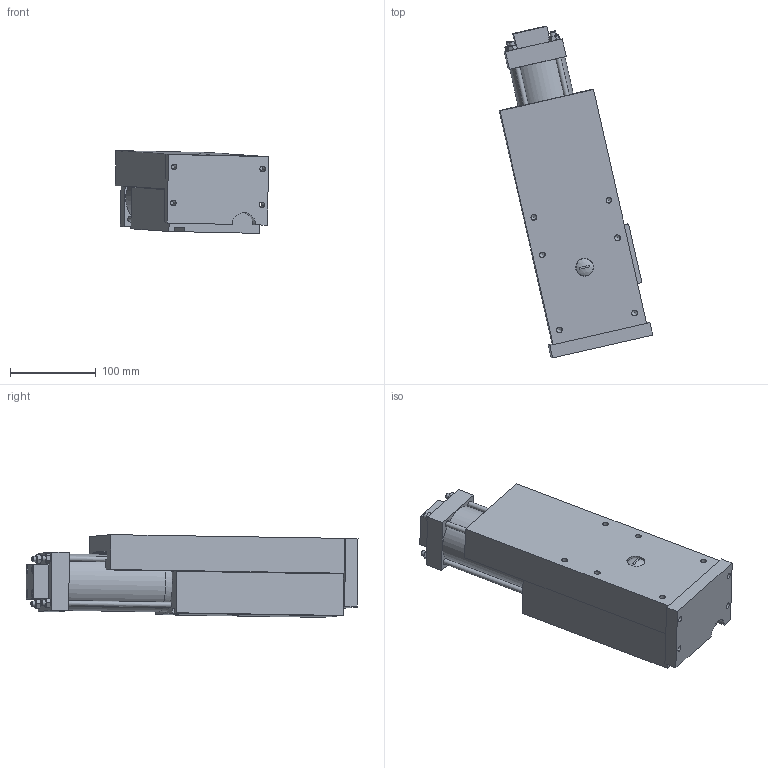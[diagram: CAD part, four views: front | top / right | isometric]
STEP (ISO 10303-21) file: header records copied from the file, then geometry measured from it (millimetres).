
FILE_DESCRIPTION((''),'2;1');
FILE_NAME('C:\VaultWork\Zeichnungen\Maßblätter\H60\VE01522-3-0 Maßblatt Vorschubschlitten H60-80 U.stp','2010-06-23T09:54:22',('Test'),(''),'Autodesk Inventor 2008','Autodesk Inventor 2008','');
FILE_SCHEMA(('AUTOMOTIVE_DESIGN { 1 0 10303 214 1 1 1 1 }'));
Length unit declared in the file: millimetre
Products named in the file (1): VE01522-3-0 Maßblatt Vorschubschlitten H60-80 U
Bounding box: 179.4 x 387.59 x 96.58 mm (x, y, z)
Volume: 2877699.8 mm3; surface area: 275411.6 mm2
Topology: 1 solids, 1 shells, 220 faces, 561 edges, 362 vertices
Faces by surface type: plane 132, bspline 49, cylinder 18, cone 16, torus 4, sphere 1
Full cylindrical faces by diameter (mm): 6 x8, 8.5 x4, 15 x1, 17 x1, 20 x1, 66 x2
Entity records: 6805 total; most frequent: CARTESIAN_POINT 2024, ORIENTED_EDGE 888, DIRECTION 840, EDGE_CURVE 444, EDGE_LOOP 338, VERTEX_POINT 326, AXIS2_PLACEMENT_3D 296, VECTOR 248
